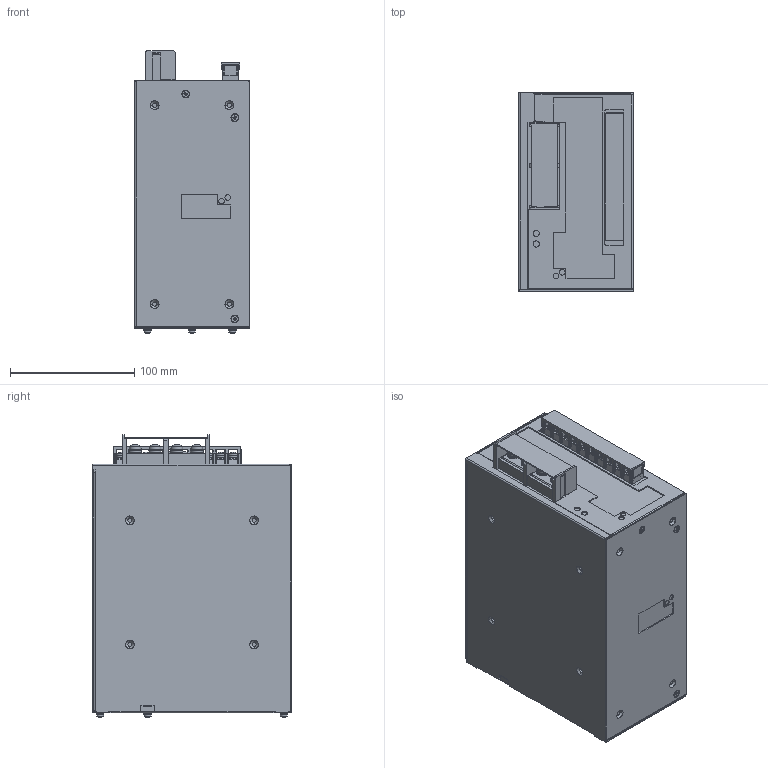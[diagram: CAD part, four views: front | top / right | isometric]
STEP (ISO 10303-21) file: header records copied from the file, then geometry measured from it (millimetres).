
FILE_DESCRIPTION (( 'STEP AP214' ), '1' );
FILE_NAME ('JWS480P_OUTLINE.STEP', '2006-10-11T05:21:34', ( ' ' ), ( ' ' ), 'SwSTEP 2.0', 'SolidWorks 2006104', '' );
FILE_SCHEMA (( 'AUTOMOTIVE_DESIGN' ));
Length unit declared in the file: millimetre
Products named in the file (1): JWS480P_OUTLINE
Bounding box: 92 x 160 x 227.45 mm (x, y, z)
Volume: 2955515.9 mm3; surface area: 159687 mm2
Topology: 4 solids, 41 shells, 2169 faces, 5612 edges, 3566 vertices
Faces by surface type: plane 1354, cylinder 479, cone 251, bspline 85
Entity records: 91329 total; most frequent: CARTESIAN_POINT 14161, ORIENTED_EDGE 11156, DIRECTION 11152, EDGE_CURVE 5578, AXIS2_PLACEMENT_3D 3871, VERTEX_POINT 3566, LINE 3410, VECTOR 3410
